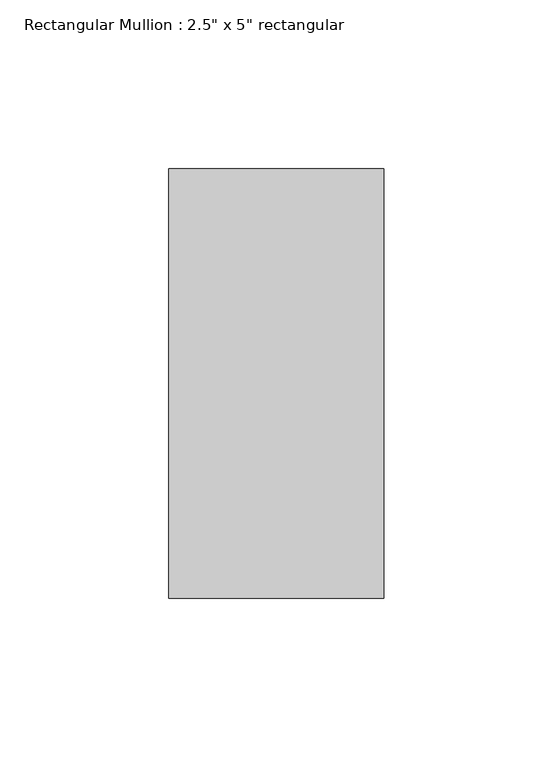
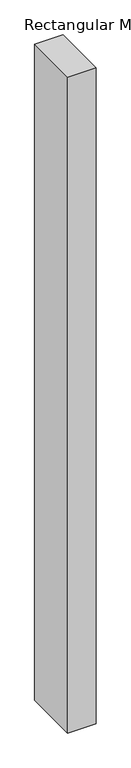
"""IFC4 building model written with IfcOpenShell, lengths in millimetres: member geometry."""

from ifc_helpers import new_model, si_unit, frame, origin, place, context, project, spatial, polyline, outline, extrude, source, transform, mapped, element, save


def member_ec06d1cd(model_context):
    return source(origin(), model_context, "Body", "SweptSolid", [
        extrude(outline(polyline([(31.75, 63.5), (31.75, -63.5), (-31.75, -63.5), (-31.75, 63.5), (31.75, 63.5)])), frame((0.0, 0.0, -1543.05), z_axis=(0.0, 0.0, 1.0), x_axis=(1.0, 0.0, 0.0)), (0.0, 0.0, 1.0), 1543.05),
    ])


if __name__ == "__main__":
    model = new_model("IFC4")
    model_context = context("Model", 3, world=origin())
    ifc_project = project(units=[si_unit("LENGTHUNIT", "METRE", prefix="MILLI")], contexts=[model_context])
    site = spatial("IfcSite", under=ifc_project)
    building = spatial("IfcBuilding", under=site)
    placement = place(None, origin())
    member_shape = member_ec06d1cd(model_context)
    element("IfcMember", 1, ObjectType="Rectangular Mullion : 2.5\" x 5\" rectangular", at=placement, inside=building, context=model_context, shape_type="MappedRepresentation", body=[
        mapped(member_shape, transform((0.0, 0.0, 0.0), x_axis=(1.0, 0.0, 0.0), y_axis=(0.0, 1.0, 0.0), z_axis=(0.0, 0.0, 1.0))),
    ])
    save(model, "model.ifc")
